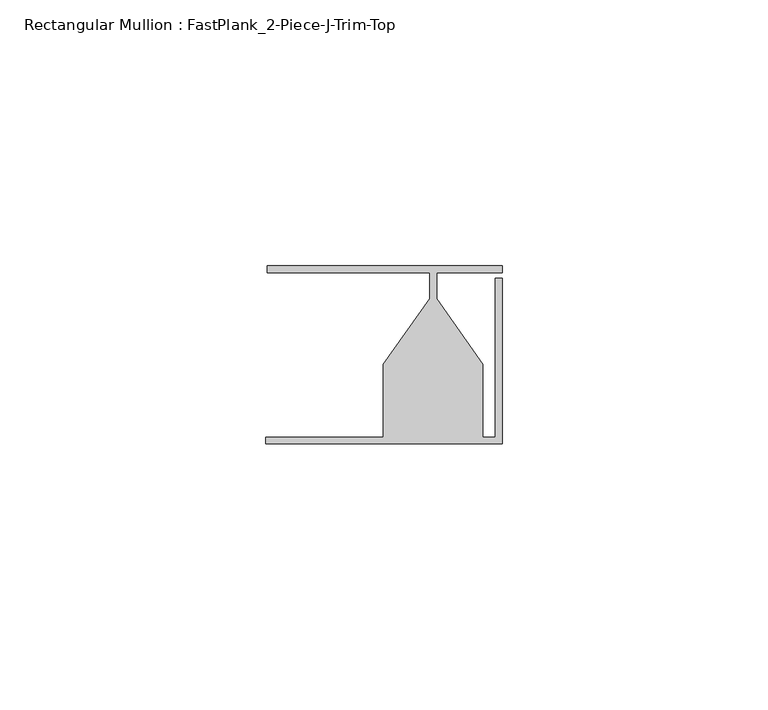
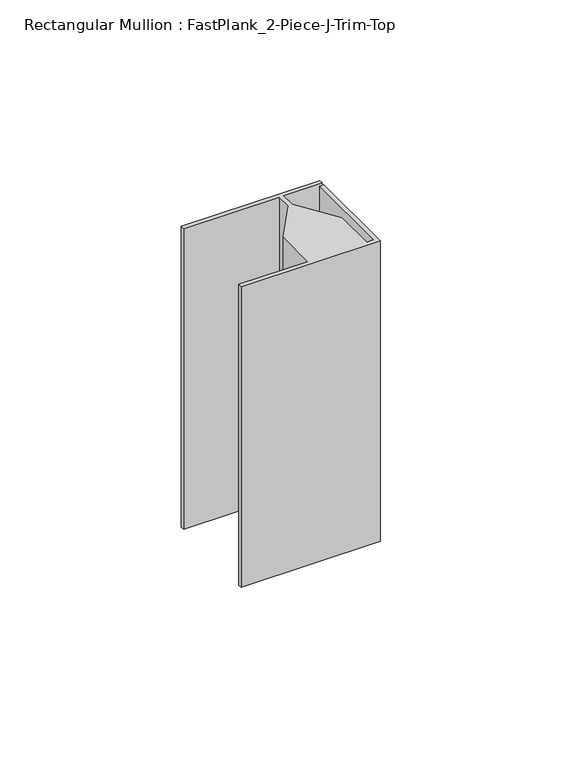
"""IFC4 building model written with IfcOpenShell, lengths in millimetres: member geometry, Rectangular Mullion : FastPlank_2-Piece-J-Trim-Top."""

from ifc_helpers import new_model, si_unit, frame, origin, place, context, project, spatial, polyline, outline, extrude, source, transform, mapped, element, save


def rectangular_mullion_fastplank_2_piece_j_trim_top_d668d3e7(model_context):
    return source(origin(), model_context, "Body", "SweptSolid", [
        extrude(outline(polyline([(0.0, 11.8625052), (0.0, 10.5618154), (-12.3176464, 10.5618154), (-12.3176464, 5.7038113), (-3.6053348, -6.6543757), (-3.6053348, -20.3381228), (-1.2999974, -20.3381228), (-1.2999974, 9.5619969), (0.0, 9.5619969), (0.0, -21.6381202), (-44.4475015, -21.6381202), (-44.4475015, -20.3381228), (-22.3299553, -20.3381228), (-22.3299553, -6.6543757), (-13.6176438, 5.7038113), (-13.6176438, 10.5618154), (-44.2023711, 10.5618154), (-44.2023711, 11.8625052), (0.0, 11.8625052)])), frame((0.0, 0.0, -101.6000003), z_axis=(0.0, 0.0, 1.0), x_axis=(1.0, 0.0, 0.0)), (0.0, 0.0, 1.0), 101.6000003),
    ])


if __name__ == "__main__":
    model = new_model("IFC4")
    model_context = context("Model", 3, world=origin())
    ifc_project = project(units=[si_unit("LENGTHUNIT", "METRE", prefix="MILLI")], contexts=[model_context])
    site = spatial("IfcSite", under=ifc_project)
    building = spatial("IfcBuilding", under=site)
    placement = place(None, origin())
    rectangular_mullion_fastplank_2_piece_j_trim_top_shape = rectangular_mullion_fastplank_2_piece_j_trim_top_d668d3e7(model_context)
    element("IfcMember", 1, ObjectType="Rectangular Mullion : FastPlank_2-Piece-J-Trim-Top", at=placement, inside=building, context=model_context, shape_type="MappedRepresentation", body=[
        mapped(rectangular_mullion_fastplank_2_piece_j_trim_top_shape, transform((0.0, 0.0, 0.0), x_axis=(1.0, 0.0, 0.0), y_axis=(0.0, 1.0, 0.0), z_axis=(0.0, 0.0, 1.0))),
    ])
    save(model, "model.ifc")
